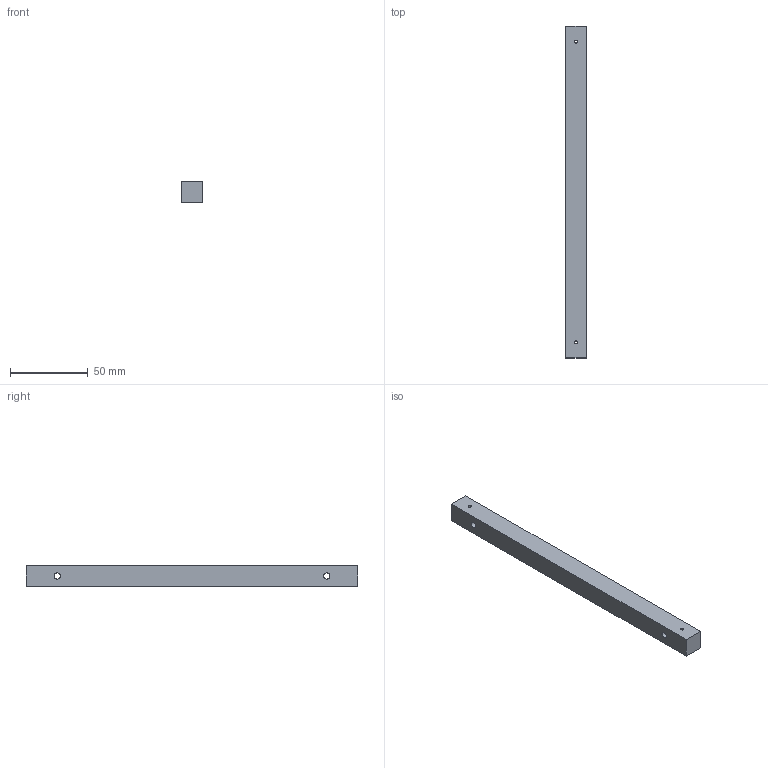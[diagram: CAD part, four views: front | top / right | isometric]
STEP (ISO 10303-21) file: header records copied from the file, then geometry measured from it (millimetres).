
FILE_DESCRIPTION(('FreeCAD Model'),'2;1');
FILE_NAME( '/home/bluelambda/Documents/Arcade/cad/step/back_trapdoor_cleat.step', '2016-05-08T10:59:14',('Author'),(''), 'Open CASCADE STEP processor 6.9','FreeCAD','Unknown');
FILE_SCHEMA(('AUTOMOTIVE_DESIGN { 1 0 10303 214 1 1 1 1 }'));
Length unit declared in the file: millimetre
Products named in the file (1): back_trapdoor_cleat
Bounding box: 13 x 213 x 13 mm (x, y, z)
Volume: 35588.6 mm3; surface area: 11841.3 mm2
Topology: 1 solids, 1 shells, 10 faces, 24 edges, 16 vertices
Faces by surface type: plane 6, cylinder 4
Full cylindrical faces by diameter (mm): 2 x2, 4 x2
Entity records: 663 total; most frequent: CARTESIAN_POINT 135, DIRECTION 96, LINE 56, VECTOR 56, ORIENTED_EDGE 48, PCURVE 48, DEFINITIONAL_REPRESENTATION 48, EDGE_CURVE 24
